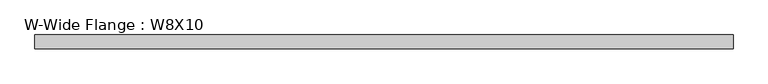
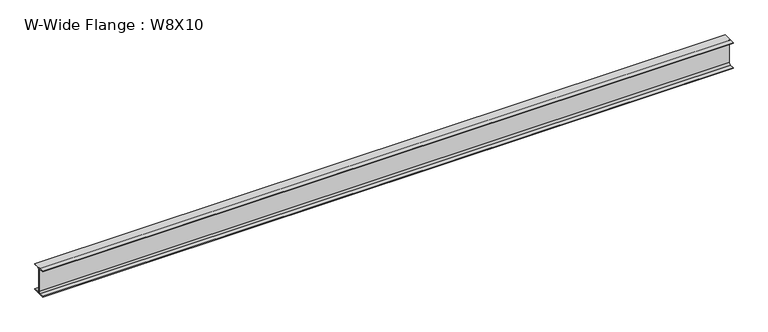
"""IFC4 building model written with IfcOpenShell, lengths in millimetres: beam geometry, W-Wide Flange : W8X10."""

from ifc_helpers import new_model, si_unit, point, frame, frame_2d, origin, place, context, project, spatial, polyline, circle_curve, trimmed, segment, composite_curve, outline, extrude, source, transform, mapped, element, save


def w_wide_flange_w8x10_45ce977e(model_context):
    return source(origin(), model_context, "Body", "SweptSolid", [
        extrude(outline(composite_curve([segment(polyline([(50.038, -94.996), (50.038, -100.203), (-50.038, -100.203), (-50.038, -94.996), (-14.4145, -94.996)]), True, "CONTINUOUS"), segment(trimmed(circle_curve(frame_2d((-14.4145, -82.7405)), 12.2555), [point((-14.4145, -94.996))], [point((-2.159, -82.7405))], True, "CARTESIAN"), True, "CONTINUOUS"), segment(polyline([(-2.159, -82.7405), (-2.159, 82.7405)]), True, "CONTINUOUS"), segment(trimmed(circle_curve(frame_2d((-14.4145, 82.7405)), 12.2555), [point((-2.159, 82.7405))], [point((-14.4145, 94.996))], True, "CARTESIAN"), True, "CONTINUOUS"), segment(polyline([(-14.4145, 94.996), (-50.038, 94.996), (-50.038, 100.203), (50.038, 100.203), (50.038, 94.996), (14.4145, 94.996)]), True, "CONTINUOUS"), segment(trimmed(circle_curve(frame_2d((14.4145, 82.7405)), 12.2555), [point((14.4145, 94.996))], [point((2.159, 82.7405))], True, "CARTESIAN"), True, "CONTINUOUS"), segment(polyline([(2.159, 82.7405), (2.159, -82.7405)]), True, "CONTINUOUS"), segment(trimmed(circle_curve(frame_2d((14.4145, -82.7405)), 12.2555), [point((2.159, -82.7405))], [point((14.4145, -94.996))], True, "CARTESIAN"), True, "CONTINUOUS"), segment(polyline([(14.4145, -94.996), (50.038, -94.996)]), True, "CONTINUOUS")], self_intersect=False)), frame((-2541.5875, 0.0, 0.0), z_axis=(1.0, 0.0, 0.0), x_axis=(0.0, 1.0, 0.0)), (0.0, 0.0, 1.0), 5083.175),
    ])


if __name__ == "__main__":
    model = new_model("IFC4")
    model_context = context("Model", 3, world=origin())
    ifc_project = project(units=[si_unit("LENGTHUNIT", "METRE", prefix="MILLI")], contexts=[model_context])
    site = spatial("IfcSite", under=ifc_project)
    building = spatial("IfcBuilding", under=site)
    placement = place(None, origin())
    w_wide_flange_w8x10_shape = w_wide_flange_w8x10_45ce977e(model_context)
    element("IfcBeam", 1, ObjectType="W-Wide Flange : W8X10", at=placement, inside=building, context=model_context, shape_type="MappedRepresentation", body=[
        mapped(w_wide_flange_w8x10_shape, transform((0.0, 0.0, 0.0), x_axis=(1.0, 0.0, 0.0), y_axis=(0.0, 1.0, 0.0), z_axis=(0.0, 0.0, 1.0))),
    ])
    save(model, "model.ifc")
